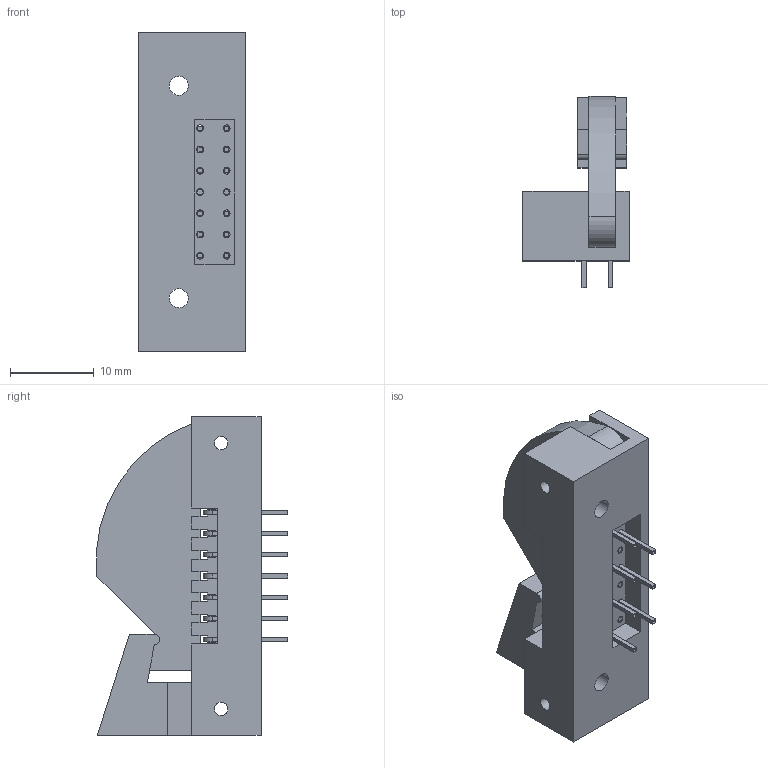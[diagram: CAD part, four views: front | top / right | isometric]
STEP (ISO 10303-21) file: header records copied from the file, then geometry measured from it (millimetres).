
FILE_DESCRIPTION (( 'STEP AP214' ), '1' );
FILE_NAME ('CONNECTOR, AZIMUTH 5A STANDARD, CLOSED.STEP', '2014-07-18T16:23:53', ( '' ), ( '' ), 'SwSTEP 2.0', 'SolidWorks 2014', '' );
FILE_SCHEMA (( 'AUTOMOTIVE_DESIGN' ));
Length unit declared in the file: inch
Products named in the file (1): CONNECTOR, AZIMUTH 5A STANDARD, CLOSED
Bounding box: 12.7 x 22.85 x 38.1 mm (x, y, z)
Surface area: 4345.6 mm2 (no closed solid volume)
Topology: 0 solids, 12 shells, 249 faces, 961 edges, 685 vertices
Faces by surface type: plane 204, cylinder 45
Full cylindrical faces by diameter (mm): 0.813 x11, 1.575 x4, 2.261 x2, 4.115 x2
Entity records: 13006 total; most frequent: CARTESIAN_POINT 1849, DIRECTION 1583, ORIENTED_EDGE 1476, EDGE_CURVE 928, VECTOR 773, LINE 773, VERTEX_POINT 671, AXIS2_PLACEMENT_3D 405
